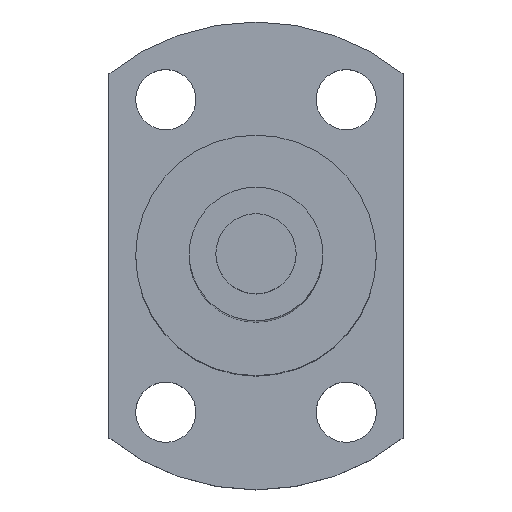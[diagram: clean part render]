
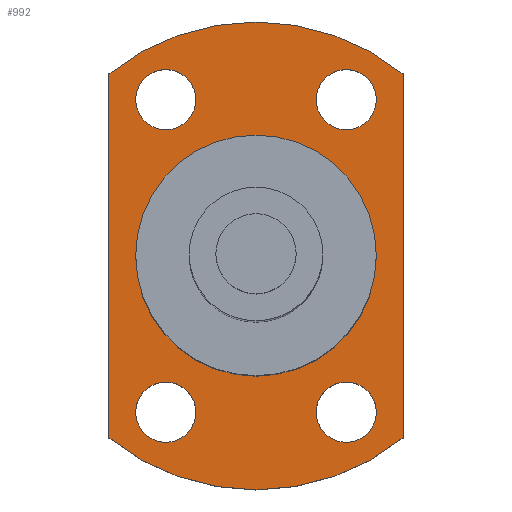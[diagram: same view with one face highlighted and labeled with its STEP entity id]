
A CAD part, top view. The second image highlights one B-rep face of the part: STEP entity #992.
In plain terms, the highlighted planar face has unit normal (0, 0, 1).
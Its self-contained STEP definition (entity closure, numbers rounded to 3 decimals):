
#219=CARTESIAN_POINT('',(6.75,11.691,115.));
#220=DIRECTION('',(0.,0.,-1.));
#221=DIRECTION('',(1.,0.,0.));
#222=AXIS2_PLACEMENT_3D('',#219,#220,#221);
#224=CARTESIAN_POINT('',(6.75,11.691,115.));
#225=DIRECTION('',(0.,0.,-1.));
#226=DIRECTION('',(-1.,0.,0.));
#227=AXIS2_PLACEMENT_3D('',#224,#225,#226);
#229=CARTESIAN_POINT('',(-6.75,11.691,115.));
#230=DIRECTION('',(0.,0.,-1.));
#231=DIRECTION('',(1.,0.,0.));
#232=AXIS2_PLACEMENT_3D('',#229,#230,#231);
#234=CARTESIAN_POINT('',(-6.75,11.691,115.));
#235=DIRECTION('',(0.,0.,-1.));
#236=DIRECTION('',(-1.,0.,0.));
#237=AXIS2_PLACEMENT_3D('',#234,#235,#236);
#239=CARTESIAN_POINT('',(6.75,-11.691,115.));
#240=DIRECTION('',(0.,0.,-1.));
#241=DIRECTION('',(1.,0.,0.));
#242=AXIS2_PLACEMENT_3D('',#239,#240,#241);
#244=CARTESIAN_POINT('',(6.75,-11.691,115.));
#245=DIRECTION('',(0.,0.,-1.));
#246=DIRECTION('',(-1.,0.,0.));
#247=AXIS2_PLACEMENT_3D('',#244,#245,#246);
#249=CARTESIAN_POINT('',(-6.75,-11.691,115.));
#250=DIRECTION('',(0.,0.,-1.));
#251=DIRECTION('',(1.,0.,0.));
#252=AXIS2_PLACEMENT_3D('',#249,#250,#251);
#254=CARTESIAN_POINT('',(-6.75,-11.691,115.));
#255=DIRECTION('',(0.,0.,-1.));
#256=DIRECTION('',(-1.,0.,0.));
#257=AXIS2_PLACEMENT_3D('',#254,#255,#256);
#259=CARTESIAN_POINT('',(0.,0.,115.));
#260=DIRECTION('',(0.,0.,1.));
#261=DIRECTION('',(0.629,0.778,0.));
#262=AXIS2_PLACEMENT_3D('',#259,#260,#261);
#264=DIRECTION('',(0.,1.,0.));
#265=VECTOR('',#264,27.221);
#266=CARTESIAN_POINT('',(11.,-13.611,115.));
#267=LINE('',#266,#265);
#268=CARTESIAN_POINT('',(0.,0.,115.));
#269=DIRECTION('',(0.,0.,1.));
#270=DIRECTION('',(-0.629,-0.778,0.));
#271=AXIS2_PLACEMENT_3D('',#268,#269,#270);
#273=DIRECTION('',(0.,-1.,0.));
#274=VECTOR('',#273,27.221);
#275=CARTESIAN_POINT('',(-11.,13.611,115.));
#276=LINE('',#275,#274);
#277=CARTESIAN_POINT('',(0.,0.,115.));
#278=DIRECTION('',(0.,0.,1.));
#279=DIRECTION('',(1.,0.,0.));
#280=AXIS2_PLACEMENT_3D('',#277,#278,#279);
#282=CARTESIAN_POINT('',(0.,0.,115.));
#283=DIRECTION('',(0.,0.,1.));
#284=DIRECTION('',(-1.,0.,0.));
#285=AXIS2_PLACEMENT_3D('',#282,#283,#284);
#573=CARTESIAN_POINT('',(9.,11.691,115.));
#574=CARTESIAN_POINT('',(4.5,11.691,115.));
#575=VERTEX_POINT('',#573);
#576=VERTEX_POINT('',#574);
#577=CARTESIAN_POINT('',(-4.5,11.691,115.));
#578=CARTESIAN_POINT('',(-9.,11.691,115.));
#579=VERTEX_POINT('',#577);
#580=VERTEX_POINT('',#578);
#581=CARTESIAN_POINT('',(9.,-11.691,115.));
#582=CARTESIAN_POINT('',(4.5,-11.691,115.));
#583=VERTEX_POINT('',#581);
#584=VERTEX_POINT('',#582);
#585=CARTESIAN_POINT('',(-4.5,-11.691,115.));
#586=CARTESIAN_POINT('',(-9.,-11.691,115.));
#587=VERTEX_POINT('',#585);
#588=VERTEX_POINT('',#586);
#589=CARTESIAN_POINT('',(-11.,13.611,115.));
#590=CARTESIAN_POINT('',(-11.,-13.611,115.));
#591=VERTEX_POINT('',#589);
#592=VERTEX_POINT('',#590);
#593=CARTESIAN_POINT('',(11.,-13.611,115.));
#594=CARTESIAN_POINT('',(11.,13.611,115.));
#595=VERTEX_POINT('',#593);
#596=VERTEX_POINT('',#594);
#605=CARTESIAN_POINT('',(9.,0.,115.));
#606=CARTESIAN_POINT('',(-9.,0.,115.));
#607=VERTEX_POINT('',#605);
#608=VERTEX_POINT('',#606);
#949=CARTESIAN_POINT('',(0.,0.,115.));
#950=DIRECTION('',(0.,0.,1.));
#951=DIRECTION('',(1.,0.,0.));
#952=AXIS2_PLACEMENT_3D('',#949,#950,#951);
#953=PLANE('',#952);
#955=ORIENTED_EDGE('',*,*,#954,.F.);
#957=ORIENTED_EDGE('',*,*,#956,.F.);
#959=ORIENTED_EDGE('',*,*,#958,.F.);
#961=ORIENTED_EDGE('',*,*,#960,.F.);
#962=EDGE_LOOP('',(#955,#957,#959,#961));
#963=FACE_OUTER_BOUND('',#962,.F.);
#964=ORIENTED_EDGE('',*,*,#929,.F.);
#965=ORIENTED_EDGE('',*,*,#943,.F.);
#966=EDGE_LOOP('',(#964,#965));
#967=FACE_BOUND('',#966,.F.);
#969=ORIENTED_EDGE('',*,*,#968,.F.);
#971=ORIENTED_EDGE('',*,*,#970,.F.);
#972=EDGE_LOOP('',(#969,#971));
#973=FACE_BOUND('',#972,.F.);
#975=ORIENTED_EDGE('',*,*,#974,.F.);
#977=ORIENTED_EDGE('',*,*,#976,.F.);
#978=EDGE_LOOP('',(#975,#977));
#979=FACE_BOUND('',#978,.F.);
#981=ORIENTED_EDGE('',*,*,#980,.F.);
#983=ORIENTED_EDGE('',*,*,#982,.F.);
#984=EDGE_LOOP('',(#981,#983));
#985=FACE_BOUND('',#984,.F.);
#987=ORIENTED_EDGE('',*,*,#986,.T.);
#989=ORIENTED_EDGE('',*,*,#988,.T.);
#990=EDGE_LOOP('',(#987,#989));
#991=FACE_BOUND('',#990,.F.);
#992=ADVANCED_FACE('',(#963,#967,#973,#979,#985,#991),#953,.T.);
#223=CIRCLE('',#222,2.25);
#228=CIRCLE('',#227,2.25);
#233=CIRCLE('',#232,2.25);
#238=CIRCLE('',#237,2.25);
#243=CIRCLE('',#242,2.25);
#248=CIRCLE('',#247,2.25);
#253=CIRCLE('',#252,2.25);
#258=CIRCLE('',#257,2.25);
#263=CIRCLE('',#262,17.5);
#272=CIRCLE('',#271,17.5);
#281=CIRCLE('',#280,9.);
#286=CIRCLE('',#285,9.);
#929=EDGE_CURVE('',#575,#576,#223,.T.);
#943=EDGE_CURVE('',#576,#575,#228,.T.);
#954=EDGE_CURVE('',#596,#591,#263,.T.);
#956=EDGE_CURVE('',#595,#596,#267,.T.);
#958=EDGE_CURVE('',#592,#595,#272,.T.);
#960=EDGE_CURVE('',#591,#592,#276,.T.);
#968=EDGE_CURVE('',#579,#580,#233,.T.);
#970=EDGE_CURVE('',#580,#579,#238,.T.);
#974=EDGE_CURVE('',#583,#584,#243,.T.);
#976=EDGE_CURVE('',#584,#583,#248,.T.);
#980=EDGE_CURVE('',#587,#588,#253,.T.);
#982=EDGE_CURVE('',#588,#587,#258,.T.);
#986=EDGE_CURVE('',#607,#608,#281,.T.);
#988=EDGE_CURVE('',#608,#607,#286,.T.);
